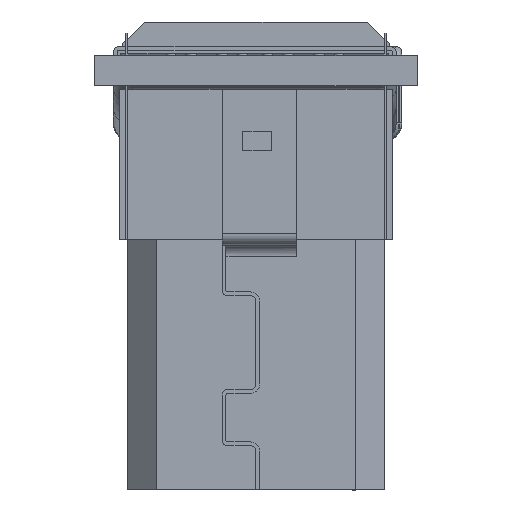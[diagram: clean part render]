
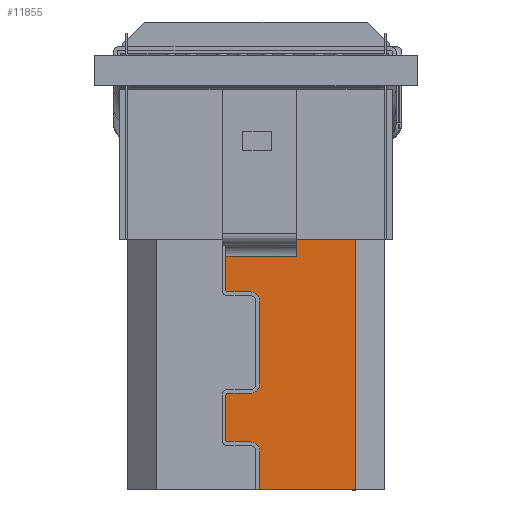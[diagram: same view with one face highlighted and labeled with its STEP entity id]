
A CAD part, front view. The second image highlights one B-rep face of the part: STEP entity #11855.
In plain terms, the highlighted planar face has unit normal (0, -1, 0) as drawn and (0, 0, 1) by its records, which use the part's own axes.
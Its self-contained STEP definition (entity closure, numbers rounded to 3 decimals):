
#11450 = VERTEX_POINT('',#11451);
#11451 = CARTESIAN_POINT('',(-2.65,0.,0.9));
#11475 = VERTEX_POINT('',#11476);
#11476 = CARTESIAN_POINT('',(-1.079,0.,0.9));
#11482 = EDGE_CURVE('',#11450,#11475,#11483,.T.);
#11483 = LINE('',#11484,#11485);
#11484 = CARTESIAN_POINT('',(-3.425,0.,0.9));
#11485 = VECTOR('',#11486,1.);
#11486 = DIRECTION('',(1.,0.,0.));
#11855 = ADVANCED_FACE('',(#11856),#11999,.F.);
#11856 = FACE_BOUND('',#11857,.T.);
#11857 = EDGE_LOOP('',(#11858,#11866,#11874,#11882,#11891,#11899,#11908,
    #11916,#11925,#11933,#11942,#11950,#11959,#11967,#11976,#11984,
    #11992,#11998));
#11858 = ORIENTED_EDGE('',*,*,#11859,.F.);
#11859 = EDGE_CURVE('',#11860,#11475,#11862,.T.);
#11860 = VERTEX_POINT('',#11861);
#11861 = CARTESIAN_POINT('',(-1.082,0.45,0.9));
#11862 = LINE('',#11863,#11864);
#11863 = CARTESIAN_POINT('',(-1.08,0.15,0.9));
#11864 = VECTOR('',#11865,1.);
#11865 = DIRECTION('',(0.006,-1.,0.));
#11866 = ORIENTED_EDGE('',*,*,#11867,.T.);
#11867 = EDGE_CURVE('',#11860,#11868,#11870,.T.);
#11868 = VERTEX_POINT('',#11869);
#11869 = CARTESIAN_POINT('',(0.8,0.45,0.9));
#11870 = LINE('',#11871,#11872);
#11871 = CARTESIAN_POINT('',(0.8,0.45,0.9));
#11872 = VECTOR('',#11873,1.);
#11873 = DIRECTION('',(1.,0.,0.));
#11874 = ORIENTED_EDGE('',*,*,#11875,.F.);
#11875 = EDGE_CURVE('',#11876,#11868,#11878,.T.);
#11876 = VERTEX_POINT('',#11877);
#11877 = CARTESIAN_POINT('',(0.8,1.35,0.9));
#11878 = LINE('',#11879,#11880);
#11879 = CARTESIAN_POINT('',(0.8,1.35,0.9));
#11880 = VECTOR('',#11881,1.);
#11881 = DIRECTION('',(0.,-1.,0.));
#11882 = ORIENTED_EDGE('',*,*,#11883,.F.);
#11883 = EDGE_CURVE('',#11884,#11876,#11886,.T.);
#11884 = VERTEX_POINT('',#11885);
#11885 = CARTESIAN_POINT('',(0.75,1.4,0.9));
#11886 = CIRCLE('',#11887,0.05);
#11887 = AXIS2_PLACEMENT_3D('',#11888,#11889,#11890);
#11888 = CARTESIAN_POINT('',(0.75,1.35,0.9));
#11889 = DIRECTION('',(0.,0.,-1.));
#11890 = DIRECTION('',(1.,0.,0.));
#11891 = ORIENTED_EDGE('',*,*,#11892,.F.);
#11892 = EDGE_CURVE('',#11893,#11884,#11895,.T.);
#11893 = VERTEX_POINT('',#11894);
#11894 = CARTESIAN_POINT('',(0.15,1.4,0.9));
#11895 = LINE('',#11896,#11897);
#11896 = CARTESIAN_POINT('',(0.15,1.4,0.9));
#11897 = VECTOR('',#11898,1.);
#11898 = DIRECTION('',(1.,0.,0.));
#11899 = ORIENTED_EDGE('',*,*,#11900,.F.);
#11900 = EDGE_CURVE('',#11901,#11893,#11903,.T.);
#11901 = VERTEX_POINT('',#11902);
#11902 = CARTESIAN_POINT('',(-0.1,1.65,0.9));
#11903 = CIRCLE('',#11904,0.25);
#11904 = AXIS2_PLACEMENT_3D('',#11905,#11906,#11907);
#11905 = CARTESIAN_POINT('',(0.15,1.65,0.9));
#11906 = DIRECTION('',(0.,0.,1.));
#11907 = DIRECTION('',(1.,0.,0.));
#11908 = ORIENTED_EDGE('',*,*,#11909,.F.);
#11909 = EDGE_CURVE('',#11910,#11901,#11912,.T.);
#11910 = VERTEX_POINT('',#11911);
#11911 = CARTESIAN_POINT('',(-0.1,3.849,0.9));
#11912 = LINE('',#11913,#11914);
#11913 = CARTESIAN_POINT('',(-0.1,3.849,0.9));
#11914 = VECTOR('',#11915,1.);
#11915 = DIRECTION('',(0.,-1.,0.));
#11916 = ORIENTED_EDGE('',*,*,#11917,.F.);
#11917 = EDGE_CURVE('',#11918,#11910,#11920,.T.);
#11918 = VERTEX_POINT('',#11919);
#11919 = CARTESIAN_POINT('',(0.15,4.099,0.9));
#11920 = CIRCLE('',#11921,0.25);
#11921 = AXIS2_PLACEMENT_3D('',#11922,#11923,#11924);
#11922 = CARTESIAN_POINT('',(0.15,3.849,0.9));
#11923 = DIRECTION('',(0.,0.,1.));
#11924 = DIRECTION('',(1.,0.,0.));
#11925 = ORIENTED_EDGE('',*,*,#11926,.F.);
#11926 = EDGE_CURVE('',#11927,#11918,#11929,.T.);
#11927 = VERTEX_POINT('',#11928);
#11928 = CARTESIAN_POINT('',(0.75,4.099,0.9));
#11929 = LINE('',#11930,#11931);
#11930 = CARTESIAN_POINT('',(0.75,4.099,0.9));
#11931 = VECTOR('',#11932,1.);
#11932 = DIRECTION('',(-1.,0.,0.));
#11933 = ORIENTED_EDGE('',*,*,#11934,.F.);
#11934 = EDGE_CURVE('',#11935,#11927,#11937,.T.);
#11935 = VERTEX_POINT('',#11936);
#11936 = CARTESIAN_POINT('',(0.8,4.149,0.9));
#11937 = CIRCLE('',#11938,0.05);
#11938 = AXIS2_PLACEMENT_3D('',#11939,#11940,#11941);
#11939 = CARTESIAN_POINT('',(0.75,4.149,0.9));
#11940 = DIRECTION('',(0.,0.,-1.));
#11941 = DIRECTION('',(1.,0.,0.));
#11942 = ORIENTED_EDGE('',*,*,#11943,.F.);
#11943 = EDGE_CURVE('',#11944,#11935,#11946,.T.);
#11944 = VERTEX_POINT('',#11945);
#11945 = CARTESIAN_POINT('',(0.8,5.349,0.9));
#11946 = LINE('',#11947,#11948);
#11947 = CARTESIAN_POINT('',(0.8,5.349,0.9));
#11948 = VECTOR('',#11949,1.);
#11949 = DIRECTION('',(0.,-1.,0.));
#11950 = ORIENTED_EDGE('',*,*,#11951,.F.);
#11951 = EDGE_CURVE('',#11952,#11944,#11954,.T.);
#11952 = VERTEX_POINT('',#11953);
#11953 = CARTESIAN_POINT('',(0.75,5.399,0.9));
#11954 = CIRCLE('',#11955,0.05);
#11955 = AXIS2_PLACEMENT_3D('',#11956,#11957,#11958);
#11956 = CARTESIAN_POINT('',(0.75,5.349,0.9));
#11957 = DIRECTION('',(0.,0.,-1.));
#11958 = DIRECTION('',(1.,0.,0.));
#11959 = ORIENTED_EDGE('',*,*,#11960,.F.);
#11960 = EDGE_CURVE('',#11961,#11952,#11963,.T.);
#11961 = VERTEX_POINT('',#11962);
#11962 = CARTESIAN_POINT('',(0.15,5.399,0.9));
#11963 = LINE('',#11964,#11965);
#11964 = CARTESIAN_POINT('',(0.15,5.399,0.9));
#11965 = VECTOR('',#11966,1.);
#11966 = DIRECTION('',(1.,0.,0.));
#11967 = ORIENTED_EDGE('',*,*,#11968,.F.);
#11968 = EDGE_CURVE('',#11969,#11961,#11971,.T.);
#11969 = VERTEX_POINT('',#11970);
#11970 = CARTESIAN_POINT('',(-0.1,5.649,0.9));
#11971 = CIRCLE('',#11972,0.25);
#11972 = AXIS2_PLACEMENT_3D('',#11973,#11974,#11975);
#11973 = CARTESIAN_POINT('',(0.15,5.649,0.9));
#11974 = DIRECTION('',(0.,0.,1.));
#11975 = DIRECTION('',(1.,0.,0.));
#11976 = ORIENTED_EDGE('',*,*,#11977,.F.);
#11977 = EDGE_CURVE('',#11978,#11969,#11980,.T.);
#11978 = VERTEX_POINT('',#11979);
#11979 = CARTESIAN_POINT('',(-0.1,6.68,0.9));
#11980 = LINE('',#11981,#11982);
#11981 = CARTESIAN_POINT('',(-0.1,6.68,0.9));
#11982 = VECTOR('',#11983,1.);
#11983 = DIRECTION('',(0.,-1.,0.));
#11984 = ORIENTED_EDGE('',*,*,#11985,.T.);
#11985 = EDGE_CURVE('',#11978,#11986,#11988,.T.);
#11986 = VERTEX_POINT('',#11987);
#11987 = CARTESIAN_POINT('',(-2.65,6.68,0.9));
#11988 = LINE('',#11989,#11990);
#11989 = CARTESIAN_POINT('',(2.284,6.68,0.9));
#11990 = VECTOR('',#11991,1.);
#11991 = DIRECTION('',(-1.,0.,0.));
#11992 = ORIENTED_EDGE('',*,*,#11993,.F.);
#11993 = EDGE_CURVE('',#11450,#11986,#11994,.T.);
#11994 = LINE('',#11995,#11996);
#11995 = CARTESIAN_POINT('',(-2.65,0.,0.9));
#11996 = VECTOR('',#11997,1.);
#11997 = DIRECTION('',(0.,1.,0.));
#11998 = ORIENTED_EDGE('',*,*,#11482,.T.);
#11999 = PLANE('',#12000);
#12000 = AXIS2_PLACEMENT_3D('',#12001,#12002,#12003);
#12001 = CARTESIAN_POINT('',(0.,0.,0.9));
#12002 = DIRECTION('',(0.,0.,-1.));
#12003 = DIRECTION('',(-1.,0.,0.));
